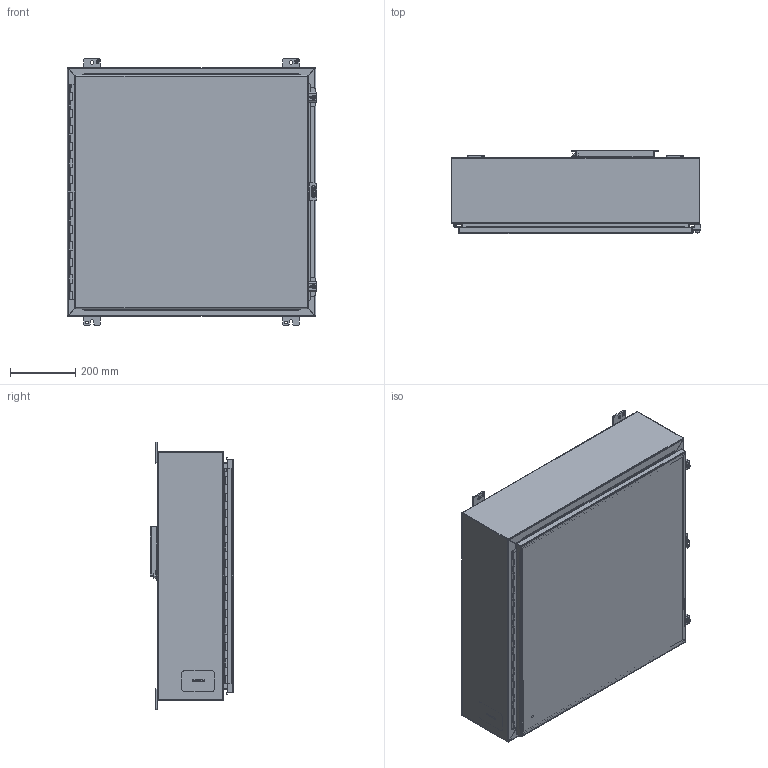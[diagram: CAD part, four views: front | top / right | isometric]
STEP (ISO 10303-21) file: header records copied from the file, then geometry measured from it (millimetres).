
FILE_DESCRIPTION(/* description */ ('Unknown'),/* implementation_level */ '2;1');
FILE_NAME(/* name */ '1418KK8',/* time_stamp */ '2021-11-29T16:29:27-05:00',/* author */ ('Unknown'),/* organization */ ('Unknown'),/* preprocessor_version */ 'ST-DEVELOPER v18.1',/* originating_system */ 'Solid Edge',/* authorisation */ 'Unknown');
FILE_SCHEMA (('AUTOMOTIVE_DESIGN {1 0 10303 214 3 1 1}'));
Length unit declared in the file: millimetre
Products named in the file (36): 1418KK8; STD26094; STD21878; COM42780; COM55702-16; KIT90256; LAB30005; NTS165305; NTS16535; COM40153-1; AKT95002; WAF25059; NTS166105; COM42189; PNT02085; COM71102-18; COM40153-2; HNG10610-26C; COM70021; FET07710; HNG10610-26B; AKT90223; SPR20265; SCC19011; WAF25035; COM42667; BUL10020; QLB20279; PKT99; COM55702-1; KIT95018; HNG10620-26P; COM70219_oa_0; PNT11078
Assembly tree (49 placements, depth 3):
  1418KK8
    STD26094  x4
    STD21878
    COM42780  x2
    COM55702-16  x2
    KIT90256
      LAB30005
      NTS165305
      NTS16535
    COM40153-1
    AKT95002  x2
      WAF25059
      NTS166105
    COM42189
      PNT02085
      COM42189
    COM71102-18
      COM40153-2
      HNG10610-26C
      COM71102-18
      STD21878
    COM70021
    FET07710  x4
    HNG10610-26B
    AKT90223  x2
      SPR20265
      SCC19011
      WAF25035
      COM42667
    BUL10020
    QLB20279
    PKT99
    COM55702-1
    KIT95018
      WAF25059
      NTS166105
      LAB30005
    HNG10620-26P
    COM70219_oa_0
    PNT11078
Bounding box: 765.17 x 257.18 x 819.15 mm (x, y, z)
Volume: 5460009.8 mm3; surface area: 5597451.8 mm2
Topology: 42 solids, 43 shells, 1389 faces, 3556 edges, 2286 vertices
Faces by surface type: plane 920, cylinder 368, bspline 53, cone 26, torus 20, sphere 2
Full cylindrical faces by diameter (mm): 3.175 x1, 4.763 x1, 4.976 x1, 5.41 x2, 6.198 x2, 6.35 x3, 6.731 x2, 7.137 x2, 7.805 x3, 7.938 x4, 8.382 x4, 9.525 x4, 9.906 x2, 11.113 x4, 11.303 x3, 12.7 x6, 16.51 x4, 25.4 x3, 88.9 x1
Entity records: 36373 total; most frequent: CARTESIAN_POINT 10882, ORIENTED_EDGE 5120, DIRECTION 4883, EDGE_CURVE 2560, LINE 1755, VECTOR 1755, VERTEX_POINT 1647, AXIS2_PLACEMENT_3D 1564
